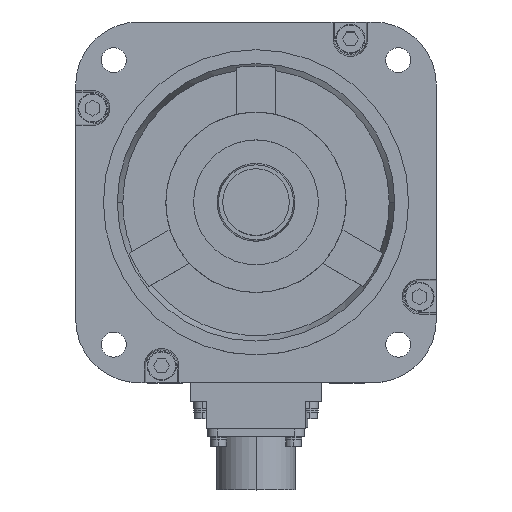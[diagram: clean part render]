
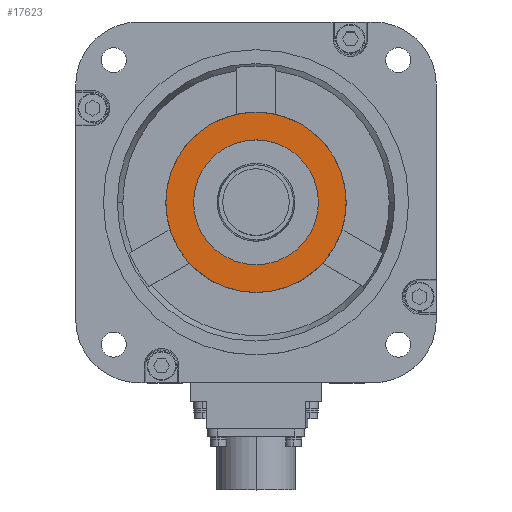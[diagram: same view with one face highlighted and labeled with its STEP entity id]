
A CAD part, top view. The second image highlights one B-rep face of the part: STEP entity #17623.
In plain terms, the highlighted planar face has unit normal (0, 0, 1).
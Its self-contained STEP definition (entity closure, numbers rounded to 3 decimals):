
#1442 = CARTESIAN_POINT ( 'NONE',  ( 0., 0., 6. ) ) ;
#1496 = DIRECTION ( 'NONE',  ( 1., 0., 0. ) ) ;
#1497 = DIRECTION ( 'NONE',  ( 0., 0., 1. ) ) ;
#1498 = CARTESIAN_POINT ( 'NONE',  ( 0., 0., 6. ) ) ;
#1499 = AXIS2_PLACEMENT_3D ( 'NONE', #1498, #1497, #1496 ) ;
#1500 = PLANE ( 'NONE',  #1499 ) ;
#1501 = FACE_OUTER_BOUND ( 'NONE', #17627, .T. ) ;
#1502 = FACE_BOUND ( 'NONE', #17624, .T. ) ;
#1503 = DIRECTION ( 'NONE',  ( 1., 0., 0. ) ) ;
#1504 = DIRECTION ( 'NONE',  ( 0., 0., 1. ) ) ;
#1505 = AXIS2_PLACEMENT_3D ( 'NONE', #1442, #1504, #1503 ) ;
#1506 = CIRCLE ( 'NONE', #1505, 22.5 ) ;
#3393 = DIRECTION ( 'NONE',  ( 1., 0., 0. ) ) ;
#3394 = DIRECTION ( 'NONE',  ( 0., 0., 1. ) ) ;
#3395 = CARTESIAN_POINT ( 'NONE',  ( 0., 0., 6. ) ) ;
#3396 = AXIS2_PLACEMENT_3D ( 'NONE', #3395, #3394, #3393 ) ;
#3397 = CIRCLE ( 'NONE', #3396, 32.5 ) ;
#4157 = VERTEX_POINT ( 'NONE', #25625 ) ;
#6356 = VERTEX_POINT ( 'NONE', #25676 ) ;
#6602 = EDGE_CURVE ( 'NONE', #6356, #4157, #25662, .T. ) ;
#14210 = CARTESIAN_POINT ( 'NONE',  ( -22.5, 0., 6. ) ) ;
#14297 = DIRECTION ( 'NONE',  ( 1., 0., 0. ) ) ;
#14299 = DIRECTION ( 'NONE',  ( 0., 0., 1. ) ) ;
#14300 = CARTESIAN_POINT ( 'NONE',  ( 0., 0., 6. ) ) ;
#14301 = AXIS2_PLACEMENT_3D ( 'NONE', #14300, #14299, #14297 ) ;
#14302 = CIRCLE ( 'NONE', #14301, 22.5 ) ;
#14381 = CARTESIAN_POINT ( 'NONE',  ( 22.5, 0., 6. ) ) ;
#17622 = EDGE_CURVE ( 'NONE', #25188, #25090, #1506, .T. ) ;
#17623 = ADVANCED_FACE ( 'NONE', ( #1502, #1501 ), #1500, .T. ) ;
#17624 = EDGE_LOOP ( 'NONE', ( #17625, #17626 ) ) ;
#17625 = ORIENTED_EDGE ( 'NONE', *, *, #17622, .F. ) ;
#17626 = ORIENTED_EDGE ( 'NONE', *, *, #25157, .F. ) ;
#17627 = EDGE_LOOP ( 'NONE', ( #17680, #17681 ) ) ;
#17680 = ORIENTED_EDGE ( 'NONE', *, *, #6602, .T. ) ;
#17681 = ORIENTED_EDGE ( 'NONE', *, *, #18793, .T. ) ;
#18793 = EDGE_CURVE ( 'NONE', #4157, #6356, #3397, .T. ) ;
#25090 = VERTEX_POINT ( 'NONE', #14210 ) ;
#25157 = EDGE_CURVE ( 'NONE', #25090, #25188, #14302, .T. ) ;
#25188 = VERTEX_POINT ( 'NONE', #14381 ) ;
#25625 = CARTESIAN_POINT ( 'NONE',  ( -32.5, 0., 6. ) ) ;
#25660 = CARTESIAN_POINT ( 'NONE',  ( 0., 0., 6. ) ) ;
#25661 = AXIS2_PLACEMENT_3D ( 'NONE', #25660, #25722, #25721 ) ;
#25662 = CIRCLE ( 'NONE', #25661, 32.5 ) ;
#25676 = CARTESIAN_POINT ( 'NONE',  ( 32.5, 0., 6. ) ) ;
#25721 = DIRECTION ( 'NONE',  ( 1., 0., 0. ) ) ;
#25722 = DIRECTION ( 'NONE',  ( 0., 0., 1. ) ) ;
